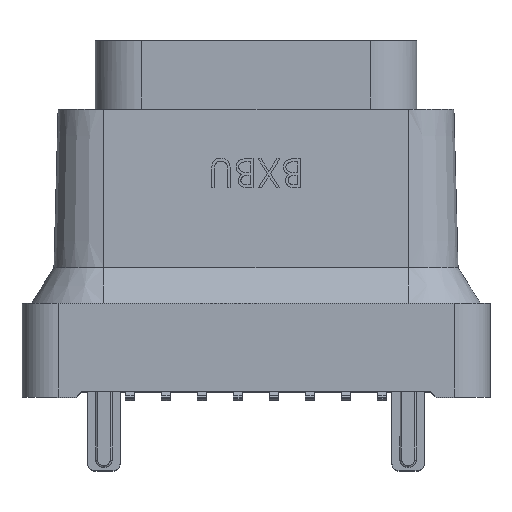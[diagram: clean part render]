
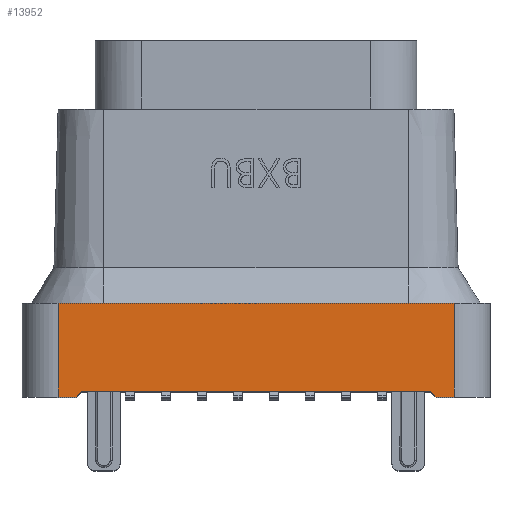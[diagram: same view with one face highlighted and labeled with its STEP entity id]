
A CAD part, top view. The second image highlights one B-rep face of the part: STEP entity #13952.
In plain terms, the highlighted planar face has unit normal (0, 0, 1).
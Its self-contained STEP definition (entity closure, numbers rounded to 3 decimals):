
#131 = CARTESIAN_POINT ( 'NONE',  ( 45.5, 0., 33.6 ) ) ;
#251 = DIRECTION ( 'NONE',  ( -0.707, -0.707, 0. ) ) ;
#330 = EDGE_CURVE ( 'NONE', #12918, #9157, #18761, .T. ) ;
#775 = DIRECTION ( 'NONE',  ( 1., 0., 0. ) ) ;
#783 = CARTESIAN_POINT ( 'NONE',  ( 45.5, 2.6, 33.6 ) ) ;
#1887 = VERTEX_POINT ( 'NONE', #783 ) ;
#1914 = VECTOR ( 'NONE', #16771, 1000. ) ;
#1990 = LINE ( 'NONE', #10971, #13694 ) ;
#2109 = EDGE_CURVE ( 'NONE', #9157, #15552, #1990, .T. ) ;
#2406 = FACE_OUTER_BOUND ( 'NONE', #12737, .T. ) ;
#3451 = CARTESIAN_POINT ( 'NONE',  ( 45.5, 0., 33.6 ) ) ;
#3666 = CARTESIAN_POINT ( 'NONE',  ( 34.5, 0., 33.6 ) ) ;
#3906 = ORIENTED_EDGE ( 'NONE', *, *, #6688, .T. ) ;
#4191 = B_SPLINE_CURVE_WITH_KNOTS ( 'NONE', 3,
 ( #5723, #8674, #16527, #18160 ),
 .UNSPECIFIED., .F., .F.,
 ( 4, 4 ),
 ( 0., 1. ),
 .UNSPECIFIED. ) ;
#4281 = ORIENTED_EDGE ( 'NONE', *, *, #330, .F. ) ;
#4313 = LINE ( 'NONE', #16394, #17900 ) ;
#4660 = CARTESIAN_POINT ( 'NONE',  ( 34.5, 2.6, 33.6 ) ) ;
#4778 = ORIENTED_EDGE ( 'NONE', *, *, #14101, .F. ) ;
#5377 = DIRECTION ( 'NONE',  ( 0., 0., 1. ) ) ;
#5470 = AXIS2_PLACEMENT_3D ( 'NONE', #5586, #5377, #775 ) ;
#5586 = CARTESIAN_POINT ( 'NONE',  ( 45.5, 2.6, 33.6 ) ) ;
#5723 = CARTESIAN_POINT ( 'NONE',  ( 34.5, 0., 33.6 ) ) ;
#5792 = EDGE_CURVE ( 'NONE', #17919, #12406, #4191, .T. ) ;
#5907 = CARTESIAN_POINT ( 'NONE',  ( 45., 0., 33.6 ) ) ;
#6033 = CARTESIAN_POINT ( 'NONE',  ( 44.85, 0.15, 33.6 ) ) ;
#6217 = DIRECTION ( 'NONE',  ( 1., 0., 0. ) ) ;
#6688 = EDGE_CURVE ( 'NONE', #1887, #12406, #4313, .T. ) ;
#7216 = CARTESIAN_POINT ( 'NONE',  ( 45., 0., 33.6 ) ) ;
#7490 = DIRECTION ( 'NONE',  ( -1., 0., 0. ) ) ;
#7570 = ORIENTED_EDGE ( 'NONE', *, *, #2109, .F. ) ;
#7737 = CARTESIAN_POINT ( 'NONE',  ( 45.5, 0., 33.6 ) ) ;
#8243 = PLANE ( 'NONE',  #5470 ) ;
#8465 = VECTOR ( 'NONE', #18673, 1000. ) ;
#8478 = EDGE_CURVE ( 'NONE', #19603, #16086, #9265, .T. ) ;
#8674 = CARTESIAN_POINT ( 'NONE',  ( 34.5, 0.867, 33.6 ) ) ;
#9144 = LINE ( 'NONE', #7216, #17524 ) ;
#9157 = VERTEX_POINT ( 'NONE', #10030 ) ;
#9265 = LINE ( 'NONE', #7737, #19187 ) ;
#10011 = CARTESIAN_POINT ( 'NONE',  ( 45.5, 0.867, 33.6 ) ) ;
#10030 = CARTESIAN_POINT ( 'NONE',  ( 35.15, 0.15, 33.6 ) ) ;
#10250 = EDGE_CURVE ( 'NONE', #17919, #15552, #13900, .T. ) ;
#10463 = ORIENTED_EDGE ( 'NONE', *, *, #8478, .T. ) ;
#10705 = ORIENTED_EDGE ( 'NONE', *, *, #5792, .F. ) ;
#10971 = CARTESIAN_POINT ( 'NONE',  ( 35., 0., 33.6 ) ) ;
#11115 = B_SPLINE_CURVE_WITH_KNOTS ( 'NONE', 3,
 ( #19712, #10011, #13485, #11856 ),
 .UNSPECIFIED., .F., .F.,
 ( 4, 4 ),
 ( 0., 1. ),
 .UNSPECIFIED. ) ;
#11248 = CARTESIAN_POINT ( 'NONE',  ( 35., 0., 33.6 ) ) ;
#11856 = CARTESIAN_POINT ( 'NONE',  ( 45.5, 2.6, 33.6 ) ) ;
#12406 = VERTEX_POINT ( 'NONE', #4660 ) ;
#12737 = EDGE_LOOP ( 'NONE', ( #4778, #10463, #14659, #3906, #10705, #15745, #7570, #4281 ) ) ;
#12901 = CARTESIAN_POINT ( 'NONE',  ( 44.85, 0.15, 33.6 ) ) ;
#12918 = VERTEX_POINT ( 'NONE', #12901 ) ;
#13424 = DIRECTION ( 'NONE',  ( -0.707, 0.707, 0. ) ) ;
#13485 = CARTESIAN_POINT ( 'NONE',  ( 45.5, 1.733, 33.6 ) ) ;
#13694 = VECTOR ( 'NONE', #251, 1000. ) ;
#13900 = LINE ( 'NONE', #131, #1914 ) ;
#13952 = ADVANCED_FACE ( 'NONE', ( #2406 ), #8243, .T. ) ;
#14101 = EDGE_CURVE ( 'NONE', #19603, #12918, #9144, .T. ) ;
#14659 = ORIENTED_EDGE ( 'NONE', *, *, #16557, .T. ) ;
#15552 = VERTEX_POINT ( 'NONE', #11248 ) ;
#15745 = ORIENTED_EDGE ( 'NONE', *, *, #10250, .T. ) ;
#16086 = VERTEX_POINT ( 'NONE', #3451 ) ;
#16394 = CARTESIAN_POINT ( 'NONE',  ( 45.5, 2.6, 33.6 ) ) ;
#16527 = CARTESIAN_POINT ( 'NONE',  ( 34.5, 1.733, 33.6 ) ) ;
#16557 = EDGE_CURVE ( 'NONE', #16086, #1887, #11115, .T. ) ;
#16771 = DIRECTION ( 'NONE',  ( 1., 0., 0. ) ) ;
#17524 = VECTOR ( 'NONE', #13424, 1000. ) ;
#17900 = VECTOR ( 'NONE', #7490, 1000. ) ;
#17919 = VERTEX_POINT ( 'NONE', #3666 ) ;
#18160 = CARTESIAN_POINT ( 'NONE',  ( 34.5, 2.6, 33.6 ) ) ;
#18673 = DIRECTION ( 'NONE',  ( -1., 0., 0. ) ) ;
#18761 = LINE ( 'NONE', #6033, #8465 ) ;
#19187 = VECTOR ( 'NONE', #6217, 1000. ) ;
#19603 = VERTEX_POINT ( 'NONE', #5907 ) ;
#19712 = CARTESIAN_POINT ( 'NONE',  ( 45.5, 0., 33.6 ) ) ;
